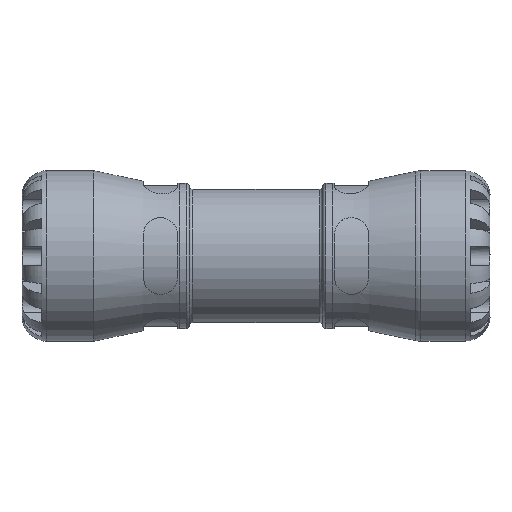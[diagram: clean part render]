
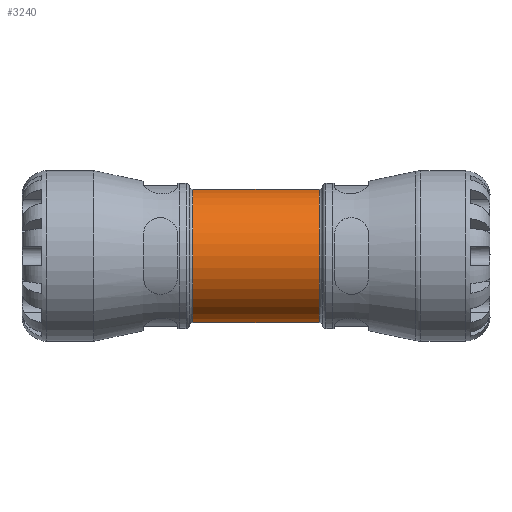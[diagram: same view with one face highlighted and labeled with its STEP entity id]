
A CAD part, front view. The second image highlights one B-rep face of the part: STEP entity #3240.
In plain terms, the highlighted cylindrical face has radius 27.3 mm (diameter 54.6 mm), a full revolution.
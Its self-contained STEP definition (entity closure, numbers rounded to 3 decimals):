
#467=FACE_BOUND('',#784,.T.);
#468=FACE_BOUND('',#785,.T.);
#510=CYLINDRICAL_SURFACE('',#3445,27.3);
#580=FACE_OUTER_BOUND('',#783,.T.);
#783=EDGE_LOOP('',(#2108));
#784=EDGE_LOOP('',(#2109));
#785=EDGE_LOOP('',(#2110));
#1026=B_SPLINE_CURVE_WITH_KNOTS('',3,(#4886,#4887,#4888,#4889,#4890,#4891,
#4892,#4893,#4894,#4895,#4896,#4897,#4898,#4899,#4900,#4901,#4902,#4903,
#4904,#4905,#4906,#4907,#4908,#4909,#4910),.UNSPECIFIED.,.T.,.F.,(4,1,1,
1,1,1,1,1,1,1,1,1,1,1,1,1,1,1,1,1,1,1,4),(-12.328,-11.888,
-11.447,-10.567,-9.686,-9.246,-8.806,
-8.219,-7.632,-7.045,-6.458,
-6.164,-5.87,-5.283,-4.696,
-4.109,-3.522,-2.935,-2.348,
-1.761,-0.881,-0.44,0.),
 .UNSPECIFIED.);
#1158=CIRCLE('',#3446,27.3);
#1159=CIRCLE('',#3447,27.3);
#1331=VERTEX_POINT('',#4858);
#1334=VERTEX_POINT('',#4915);
#1335=VERTEX_POINT('',#4917);
#1638=EDGE_CURVE('',#1331,#1331,#1026,.T.);
#1640=EDGE_CURVE('',#1334,#1334,#1158,.T.);
#1641=EDGE_CURVE('',#1335,#1335,#1159,.T.);
#2108=ORIENTED_EDGE('',*,*,#1640,.F.);
#2109=ORIENTED_EDGE('',*,*,#1641,.F.);
#2110=ORIENTED_EDGE('',*,*,#1638,.F.);
#3240=ADVANCED_FACE('',(#580,#467,#468),#510,.T.);
#3445=AXIS2_PLACEMENT_3D('',#4914,#3826,#3827);
#3446=AXIS2_PLACEMENT_3D('',#4916,#3828,#3829);
#3447=AXIS2_PLACEMENT_3D('',#4918,#3830,#3831);
#3826=DIRECTION('center_axis',(1.,0.,0.));
#3827=DIRECTION('ref_axis',(0.,1.,0.));
#3828=DIRECTION('center_axis',(1.,0.,0.));
#3829=DIRECTION('ref_axis',(0.,1.,0.));
#3830=DIRECTION('center_axis',(-1.,0.,0.));
#3831=DIRECTION('ref_axis',(0.,1.,0.));
#4858=CARTESIAN_POINT('',(0.,18.082,-20.453));
#4886=CARTESIAN_POINT('Ctrl Pts',(0.,18.081,
-20.453));
#4887=CARTESIAN_POINT('Ctrl Pts',(-1.832,18.081,-20.453));
#4888=CARTESIAN_POINT('Ctrl Pts',(-5.496,18.531,-20.069));
#4889=CARTESIAN_POINT('Ctrl Pts',(-12.034,20.686,-17.96));
#4890=CARTESIAN_POINT('Ctrl Pts',(-18.624,24.241,-13.392));
#4891=CARTESIAN_POINT('Ctrl Pts',(-22.713,26.866,-6.431));
#4892=CARTESIAN_POINT('Ctrl Pts',(-23.591,27.445,0.003));
#4893=CARTESIAN_POINT('Ctrl Pts',(-22.86,26.964,5.348));
#4894=CARTESIAN_POINT('Ctrl Pts',(-20.347,25.346,10.661));
#4895=CARTESIAN_POINT('Ctrl Pts',(-16.021,22.802,15.264));
#4896=CARTESIAN_POINT('Ctrl Pts',(-10.496,20.097,18.596));
#4897=CARTESIAN_POINT('Ctrl Pts',(-4.893,18.375,20.197));
#4898=CARTESIAN_POINT('Ctrl Pts',(0.,17.984,
20.539));
#4899=CARTESIAN_POINT('Ctrl Pts',(4.895,18.376,20.197));
#4900=CARTESIAN_POINT('Ctrl Pts',(10.497,20.098,18.595));
#4901=CARTESIAN_POINT('Ctrl Pts',(16.021,22.802,15.266));
#4902=CARTESIAN_POINT('Ctrl Pts',(20.346,25.345,10.659));
#4903=CARTESIAN_POINT('Ctrl Pts',(23.091,27.113,4.87));
#4904=CARTESIAN_POINT('Ctrl Pts',(23.69,27.512,-1.646));
#4905=CARTESIAN_POINT('Ctrl Pts',(21.951,26.364,-7.899));
#4906=CARTESIAN_POINT('Ctrl Pts',(17.747,23.765,-13.986));
#4907=CARTESIAN_POINT('Ctrl Pts',(12.034,20.687,-17.966));
#4908=CARTESIAN_POINT('Ctrl Pts',(5.496,18.531,-20.067));
#4909=CARTESIAN_POINT('Ctrl Pts',(1.832,18.081,-20.453));
#4910=CARTESIAN_POINT('Ctrl Pts',(0.,18.081,
-20.453));
#4914=CARTESIAN_POINT('Origin',(13.65,0.,0.));
#4915=CARTESIAN_POINT('',(25.922,-27.3,0.));
#4916=CARTESIAN_POINT('Origin',(25.922,0.,0.));
#4917=CARTESIAN_POINT('',(-25.922,-27.3,0.));
#4918=CARTESIAN_POINT('Origin',(-25.922,0.,0.));
